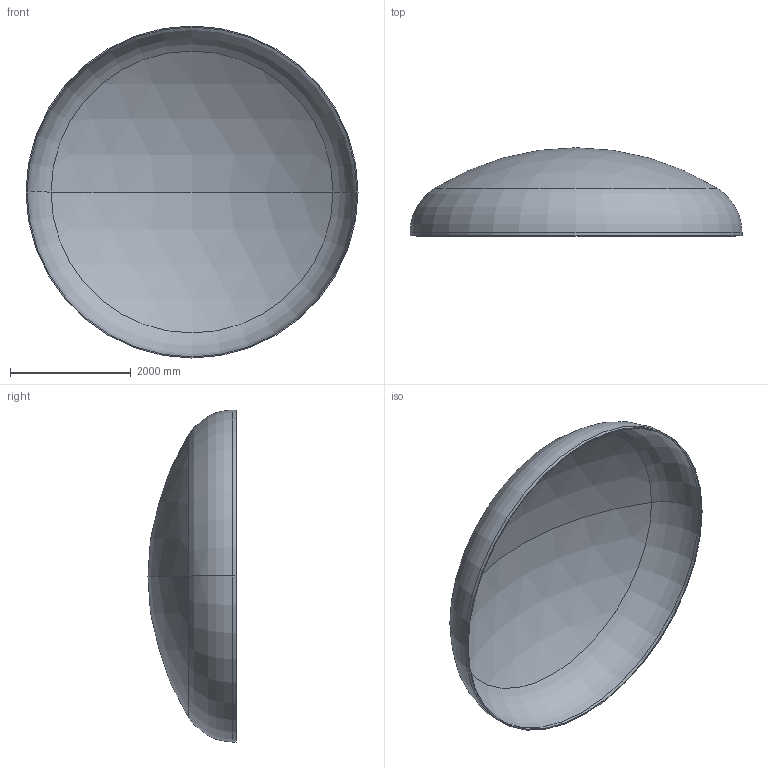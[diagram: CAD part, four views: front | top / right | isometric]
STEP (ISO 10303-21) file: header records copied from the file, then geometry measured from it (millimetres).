
FILE_DESCRIPTION (( 'STEP AP203' ), '1' );
FILE_NAME ('DIN 28013 Korbbogenform_-_Boden DIN 28013 - 5500 x 55 - I - s=18.step', '2016-07-04T10:33:40', ( '' ), ( '' ), 'SwSTEP 2.0', 'SolidWorks 2013', '' );
FILE_SCHEMA (( 'CONFIG_CONTROL_DESIGN' ));
Length unit declared in the file: millimetre
Products named in the file (1): DIN 28013 Korbbogenform_-_Boden DIN 28013 - 5500 x 55 - I - s=18
Bounding box: 5500 x 1460.15 x 5500 mm (x, y, z)
Volume: 606548479.5 mm3; surface area: 67704926.5 mm2
Topology: 1 solids, 1 shells, 13 faces, 24 edges, 14 vertices
Faces by surface type: torus 4, cylinder 4, sphere 4, plane 1
Entity records: 407 total; most frequent: DIRECTION 72, CARTESIAN_POINT 52, ORIENTED_EDGE 48, AXIS2_PLACEMENT_3D 34, EDGE_CURVE 24, CIRCLE 20, EDGE_LOOP 14, VERTEX_POINT 14
